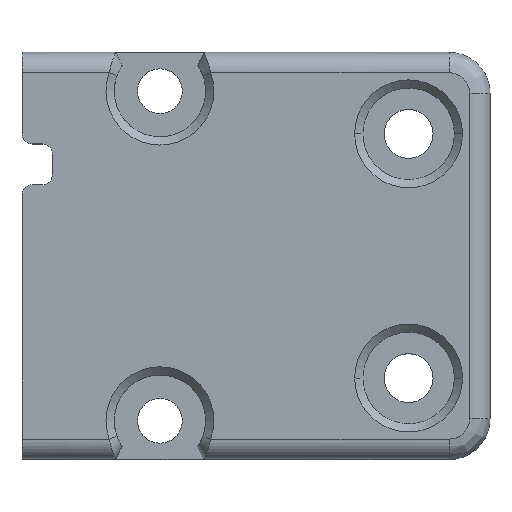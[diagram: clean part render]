
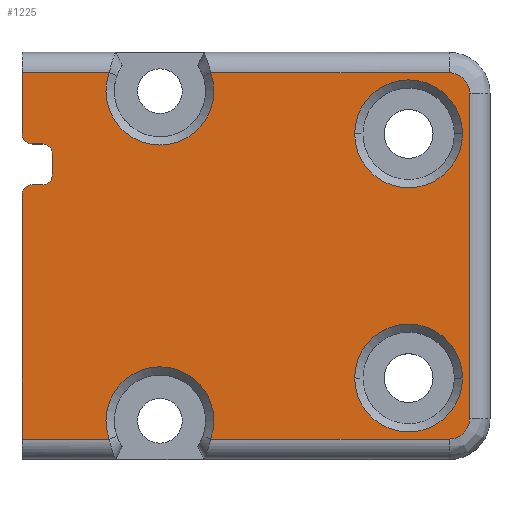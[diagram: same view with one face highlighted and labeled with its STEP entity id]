
A CAD part, top view. The second image highlights one B-rep face of the part: STEP entity #1225.
In plain terms, the highlighted planar face has unit normal (0, 0, 1).
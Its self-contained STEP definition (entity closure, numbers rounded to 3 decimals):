
#132=CARTESIAN_POINT('',(-3.222,-8.1,4.));
#133=DIRECTION('',(0.,0.,-1.));
#134=DIRECTION('',(-0.941,-0.34,0.));
#135=AXIS2_PLACEMENT_3D('',#132,#133,#134);
#137=DIRECTION('',(0.,1.,0.));
#138=VECTOR('',#137,12.);
#139=CARTESIAN_POINT('',(-10.,-9.,4.));
#140=LINE('',#139,#138);
#141=CARTESIAN_POINT('',(-9.5,3.,4.));
#142=DIRECTION('',(0.,0.,1.));
#143=DIRECTION('',(0.,1.,0.));
#144=AXIS2_PLACEMENT_3D('',#141,#142,#143);
#146=DIRECTION('',(1.,0.,0.));
#147=VECTOR('',#146,0.5);
#148=CARTESIAN_POINT('',(-9.5,3.5,4.));
#149=LINE('',#148,#147);
#150=DIRECTION('',(0.,-1.,0.));
#151=VECTOR('',#150,1.);
#152=CARTESIAN_POINT('',(-8.5,5.,4.));
#153=LINE('',#152,#151);
#154=DIRECTION('',(1.,0.,0.));
#155=VECTOR('',#154,0.5);
#156=CARTESIAN_POINT('',(-9.5,5.5,4.));
#157=LINE('',#156,#155);
#158=CARTESIAN_POINT('',(-9.5,6.,4.));
#159=DIRECTION('',(0.,0.,1.));
#160=DIRECTION('',(-1.,0.,0.));
#161=AXIS2_PLACEMENT_3D('',#158,#159,#160);
#163=DIRECTION('',(0.,1.,0.));
#164=VECTOR('',#163,3.);
#165=CARTESIAN_POINT('',(-10.,6.,4.));
#166=LINE('',#165,#164);
#167=CARTESIAN_POINT('',(-3.222,8.1,4.));
#168=DIRECTION('',(0.,0.,-1.));
#169=DIRECTION('',(0.941,0.34,0.));
#170=AXIS2_PLACEMENT_3D('',#167,#168,#169);
#172=CARTESIAN_POINT('',(11.,8.,4.));
#173=DIRECTION('',(0.,0.,-1.));
#174=DIRECTION('',(0.,1.,0.));
#175=AXIS2_PLACEMENT_3D('',#172,#173,#174);
#177=CARTESIAN_POINT('',(11.,-8.,4.));
#178=DIRECTION('',(0.,0.,-1.));
#179=DIRECTION('',(1.,0.,0.));
#180=AXIS2_PLACEMENT_3D('',#177,#178,#179);
#182=CARTESIAN_POINT('',(9.,-6.,4.));
#183=DIRECTION('',(0.,0.,-1.));
#184=DIRECTION('',(-1.,0.,0.));
#185=AXIS2_PLACEMENT_3D('',#182,#183,#184);
#187=CARTESIAN_POINT('',(9.,-6.,4.));
#188=DIRECTION('',(0.,0.,-1.));
#189=DIRECTION('',(1.,0.,0.));
#190=AXIS2_PLACEMENT_3D('',#187,#188,#189);
#192=CARTESIAN_POINT('',(9.,6.,4.));
#193=DIRECTION('',(0.,0.,-1.));
#194=DIRECTION('',(-1.,0.,0.));
#195=AXIS2_PLACEMENT_3D('',#192,#193,#194);
#197=CARTESIAN_POINT('',(9.,6.,4.));
#198=DIRECTION('',(0.,0.,-1.));
#199=DIRECTION('',(1.,0.,0.));
#200=AXIS2_PLACEMENT_3D('',#197,#198,#199);
#210=CARTESIAN_POINT('',(-0.729,-9.,
4.));
#221=DIRECTION('',(1.,0.,0.));
#222=VECTOR('',#221,11.729);
#223=CARTESIAN_POINT('',(-0.729,-9.,
4.));
#224=LINE('',#223,#222);
#244=DIRECTION('',(1.,0.,0.));
#245=VECTOR('',#244,4.286);
#246=CARTESIAN_POINT('',(-10.,-9.,4.));
#247=LINE('',#246,#245);
#263=DIRECTION('',(0.,1.,0.));
#264=VECTOR('',#263,16.);
#265=CARTESIAN_POINT('',(12.,-8.,4.));
#266=LINE('',#265,#264);
#286=CARTESIAN_POINT('',(-5.714,9.,4.));
#297=DIRECTION('',(-1.,0.,0.));
#298=VECTOR('',#297,4.286);
#299=CARTESIAN_POINT('',(-5.714,9.,4.));
#300=LINE('',#299,#298);
#320=DIRECTION('',(-1.,0.,0.));
#321=VECTOR('',#320,11.729);
#322=CARTESIAN_POINT('',(11.,9.,4.));
#323=LINE('',#322,#321);
#447=CARTESIAN_POINT('',(-9.,5.,4.));
#448=DIRECTION('',(0.,0.,-1.));
#449=DIRECTION('',(0.,1.,0.));
#450=AXIS2_PLACEMENT_3D('',#447,#448,#449);
#469=CARTESIAN_POINT('',(-9.,4.,4.));
#470=DIRECTION('',(0.,0.,-1.));
#471=DIRECTION('',(1.,0.,0.));
#472=AXIS2_PLACEMENT_3D('',#469,#470,#471);
#807=CARTESIAN_POINT('',(11.,9.,4.));
#808=CARTESIAN_POINT('',(12.,8.,4.));
#809=VERTEX_POINT('',#807);
#810=VERTEX_POINT('',#808);
#811=CARTESIAN_POINT('',(12.,-8.,4.));
#812=VERTEX_POINT('',#811);
#813=CARTESIAN_POINT('',(11.,-9.,4.));
#814=VERTEX_POINT('',#813);
#816=CARTESIAN_POINT('',(-10.,9.,4.));
#818=VERTEX_POINT('',#816);
#821=CARTESIAN_POINT('',(-10.,-9.,4.));
#823=VERTEX_POINT('',#821);
#864=CARTESIAN_POINT('',(-8.5,5.,4.));
#866=VERTEX_POINT('',#864);
#868=CARTESIAN_POINT('',(-9.,5.5,4.));
#870=VERTEX_POINT('',#868);
#872=CARTESIAN_POINT('',(-9.,3.5,4.));
#874=VERTEX_POINT('',#872);
#876=CARTESIAN_POINT('',(-8.5,4.,4.));
#878=VERTEX_POINT('',#876);
#881=CARTESIAN_POINT('',(-10.,6.,4.));
#882=CARTESIAN_POINT('',(-9.5,5.5,4.));
#883=VERTEX_POINT('',#881);
#884=VERTEX_POINT('',#882);
#893=CARTESIAN_POINT('',(-9.5,3.5,4.));
#894=VERTEX_POINT('',#893);
#895=CARTESIAN_POINT('',(-10.,3.,4.));
#896=VERTEX_POINT('',#895);
#929=VERTEX_POINT('',#210);
#931=CARTESIAN_POINT('',(-5.714,-9.,4.));
#932=VERTEX_POINT('',#931);
#949=VERTEX_POINT('',#286);
#951=CARTESIAN_POINT('',(-0.729,9.,4.));
#952=VERTEX_POINT('',#951);
#961=CARTESIAN_POINT('',(6.35,-6.,4.));
#962=CARTESIAN_POINT('',(11.65,-6.,4.));
#963=VERTEX_POINT('',#961);
#964=VERTEX_POINT('',#962);
#969=CARTESIAN_POINT('',(6.35,6.,4.));
#970=CARTESIAN_POINT('',(11.65,6.,4.));
#971=VERTEX_POINT('',#969);
#972=VERTEX_POINT('',#970);
#1171=CARTESIAN_POINT('',(0.,0.,4.));
#1172=DIRECTION('',(0.,0.,1.));
#1173=DIRECTION('',(1.,0.,0.));
#1174=AXIS2_PLACEMENT_3D('',#1171,#1172,#1173);
#1175=PLANE('',#1174);
#1177=ORIENTED_EDGE('',*,*,#1176,.F.);
#1179=ORIENTED_EDGE('',*,*,#1178,.F.);
#1181=ORIENTED_EDGE('',*,*,#1180,.T.);
#1183=ORIENTED_EDGE('',*,*,#1182,.F.);
#1185=ORIENTED_EDGE('',*,*,#1184,.T.);
#1187=ORIENTED_EDGE('',*,*,#1186,.F.);
#1189=ORIENTED_EDGE('',*,*,#1188,.F.);
#1191=ORIENTED_EDGE('',*,*,#1190,.F.);
#1193=ORIENTED_EDGE('',*,*,#1192,.F.);
#1195=ORIENTED_EDGE('',*,*,#1194,.F.);
#1197=ORIENTED_EDGE('',*,*,#1196,.T.);
#1199=ORIENTED_EDGE('',*,*,#1198,.F.);
#1201=ORIENTED_EDGE('',*,*,#1200,.F.);
#1203=ORIENTED_EDGE('',*,*,#1202,.F.);
#1205=ORIENTED_EDGE('',*,*,#1204,.T.);
#1207=ORIENTED_EDGE('',*,*,#1206,.F.);
#1209=ORIENTED_EDGE('',*,*,#1208,.T.);
#1211=ORIENTED_EDGE('',*,*,#1210,.F.);
#1212=EDGE_LOOP('',(#1177,#1179,#1181,#1183,#1185,#1187,#1189,#1191,#1193,#1195,
#1197,#1199,#1201,#1203,#1205,#1207,#1209,#1211));
#1213=FACE_OUTER_BOUND('',#1212,.F.);
#1215=ORIENTED_EDGE('',*,*,#1214,.F.);
#1216=ORIENTED_EDGE('',*,*,#1161,.F.);
#1217=EDGE_LOOP('',(#1215,#1216));
#1218=FACE_BOUND('',#1217,.F.);
#1220=ORIENTED_EDGE('',*,*,#1219,.F.);
#1222=ORIENTED_EDGE('',*,*,#1221,.F.);
#1223=EDGE_LOOP('',(#1220,#1222));
#1224=FACE_BOUND('',#1223,.F.);
#1225=ADVANCED_FACE('',(#1213,#1218,#1224),#1175,.T.);
#136=CIRCLE('',#135,2.65);
#145=CIRCLE('',#144,0.5);
#162=CIRCLE('',#161,0.5);
#171=CIRCLE('',#170,2.65);
#176=CIRCLE('',#175,1.);
#181=CIRCLE('',#180,1.);
#186=CIRCLE('',#185,2.65);
#191=CIRCLE('',#190,2.65);
#196=CIRCLE('',#195,2.65);
#201=CIRCLE('',#200,2.65);
#451=CIRCLE('',#450,0.5);
#473=CIRCLE('',#472,0.5);
#1161=EDGE_CURVE('',#964,#963,#191,.T.);
#1176=EDGE_CURVE('',#932,#929,#136,.T.);
#1178=EDGE_CURVE('',#823,#932,#247,.T.);
#1180=EDGE_CURVE('',#823,#896,#140,.T.);
#1182=EDGE_CURVE('',#894,#896,#145,.T.);
#1184=EDGE_CURVE('',#894,#874,#149,.T.);
#1186=EDGE_CURVE('',#878,#874,#473,.T.);
#1188=EDGE_CURVE('',#866,#878,#153,.T.);
#1190=EDGE_CURVE('',#870,#866,#451,.T.);
#1192=EDGE_CURVE('',#884,#870,#157,.T.);
#1194=EDGE_CURVE('',#883,#884,#162,.T.);
#1196=EDGE_CURVE('',#883,#818,#166,.T.);
#1198=EDGE_CURVE('',#949,#818,#300,.T.);
#1200=EDGE_CURVE('',#952,#949,#171,.T.);
#1202=EDGE_CURVE('',#809,#952,#323,.T.);
#1204=EDGE_CURVE('',#809,#810,#176,.T.);
#1206=EDGE_CURVE('',#812,#810,#266,.T.);
#1208=EDGE_CURVE('',#812,#814,#181,.T.);
#1210=EDGE_CURVE('',#929,#814,#224,.T.);
#1214=EDGE_CURVE('',#963,#964,#186,.T.);
#1219=EDGE_CURVE('',#971,#972,#196,.T.);
#1221=EDGE_CURVE('',#972,#971,#201,.T.);
